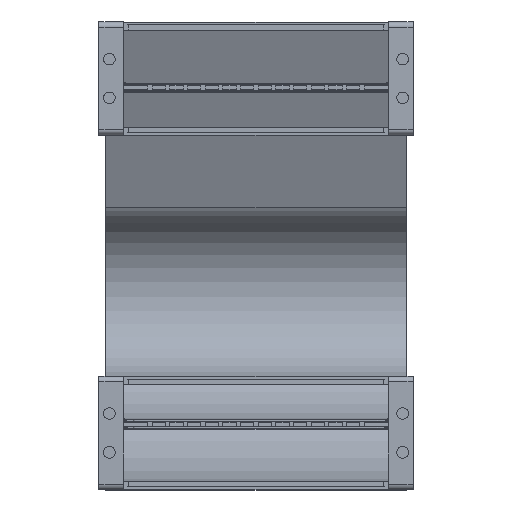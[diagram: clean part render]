
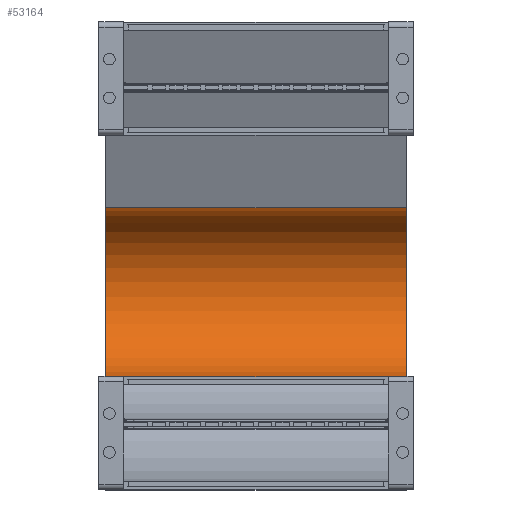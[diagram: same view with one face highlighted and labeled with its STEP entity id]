
A CAD part, top view. The second image highlights one B-rep face of the part: STEP entity #53164.
In plain terms, the highlighted cylindrical face has radius 48 mm (diameter 96 mm), a partial arc.
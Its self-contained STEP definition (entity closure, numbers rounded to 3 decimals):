
#52316=DIRECTION('',(-1.,0.,0.));
#52317=VECTOR('',#52316,170.);
#52318=CARTESIAN_POINT('',(85.,64.,-500.));
#52319=LINE('',#52318,#52317);
#52330=DIRECTION('',(-1.,0.,0.));
#52331=VECTOR('',#52330,170.);
#52332=CARTESIAN_POINT('',(85.,159.754,-504.851));
#52333=LINE('',#52332,#52331);
#52337=CARTESIAN_POINT('',(85.,112.,-500.));
#52338=DIRECTION('',(-1.,0.,0.));
#52339=DIRECTION('',(0.,0.995,-0.101));
#52340=AXIS2_PLACEMENT_3D('',#52337,#52338,#52339);
#52416=CARTESIAN_POINT('',(-85.,112.,-500.));
#52417=DIRECTION('',(-1.,0.,0.));
#52418=DIRECTION('',(0.,0.995,-0.101));
#52419=AXIS2_PLACEMENT_3D('',#52416,#52417,#52418);
#52538=CARTESIAN_POINT('',(85.,159.754,-504.851));
#52539=CARTESIAN_POINT('',(-85.,159.754,-504.851));
#52540=VERTEX_POINT('',#52538);
#52541=VERTEX_POINT('',#52539);
#52562=CARTESIAN_POINT('',(85.,64.,-500.));
#52563=CARTESIAN_POINT('',(-85.,64.,-500.));
#52564=VERTEX_POINT('',#52562);
#52565=VERTEX_POINT('',#52563);
#53150=CARTESIAN_POINT('',(1.,112.,-500.));
#53151=DIRECTION('',(-1.,0.,0.));
#53152=DIRECTION('',(0.,-0.995,0.101));
#53153=AXIS2_PLACEMENT_3D('',#53150,#53151,#53152);
#53154=CYLINDRICAL_SURFACE('',#53153,48.);
#53156=ORIENTED_EDGE('',*,*,#53155,.F.);
#53158=ORIENTED_EDGE('',*,*,#53157,.T.);
#53159=ORIENTED_EDGE('',*,*,#53133,.T.);
#53161=ORIENTED_EDGE('',*,*,#53160,.F.);
#53162=EDGE_LOOP('',(#53156,#53158,#53159,#53161));
#53163=FACE_OUTER_BOUND('',#53162,.F.);
#52341=CIRCLE('',#52340,48.);
#52420=CIRCLE('',#52419,48.);
#53133=EDGE_CURVE('',#52564,#52565,#52319,.T.);
#53155=EDGE_CURVE('',#52540,#52541,#52333,.T.);
#53157=EDGE_CURVE('',#52540,#52564,#52341,.T.);
#53160=EDGE_CURVE('',#52541,#52565,#52420,.T.);
#53164=ADVANCED_FACE('',(#53163),#53154,.F.);
